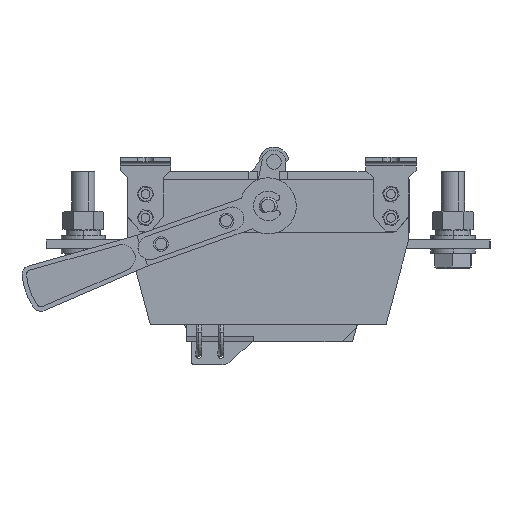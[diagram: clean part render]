
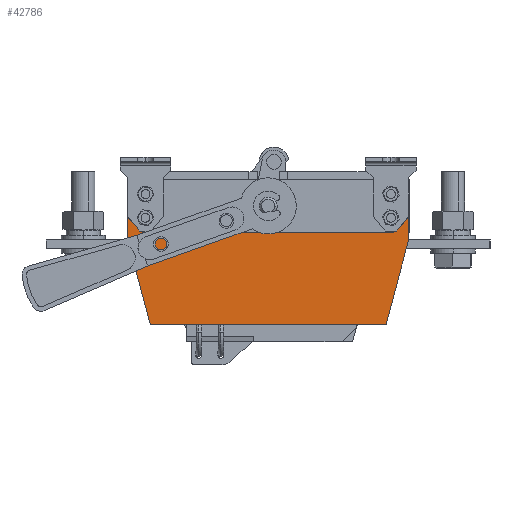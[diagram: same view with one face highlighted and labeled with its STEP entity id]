
A CAD part, left-side view. The second image highlights one B-rep face of the part: STEP entity #42786.
In plain terms, the highlighted planar face has unit normal (-1, 0, 0).
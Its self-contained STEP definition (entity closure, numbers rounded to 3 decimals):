
#60 = LINE ( 'NONE', #16211, #23986 ) ;
#320 = EDGE_CURVE ( 'NONE', #30014, #33163, #51762, .T. ) ;
#2501 = VERTEX_POINT ( 'NONE', #90191 ) ;
#3527 = EDGE_CURVE ( 'NONE', #77243, #52592, #99203, .T. ) ;
#5001 = PLANE ( 'NONE',  #63020 ) ;
#6196 = CARTESIAN_POINT ( 'NONE',  ( -111.5, -79.727, -80. ) ) ;
#6411 = DIRECTION ( 'NONE',  ( 0., -1., 0. ) ) ;
#6887 = DIRECTION ( 'NONE',  ( 0., -0.259, 0.966 ) ) ;
#8401 = ORIENTED_EDGE ( 'NONE', *, *, #11473, .T. ) ;
#10315 = ORIENTED_EDGE ( 'NONE', *, *, #101495, .F. ) ;
#11473 = EDGE_CURVE ( 'NONE', #52592, #30014, #52260, .T. ) ;
#12160 = ORIENTED_EDGE ( 'NONE', *, *, #17195, .F. ) ;
#12394 = CARTESIAN_POINT ( 'NONE',  ( -111.5, 86.5, -8. ) ) ;
#12773 = AXIS2_PLACEMENT_3D ( 'NONE', #54101, #54448, #46412 ) ;
#13175 = DIRECTION ( 'NONE',  ( 0., 1., 0. ) ) ;
#13227 = EDGE_CURVE ( 'NONE', #2501, #77243, #36484, .T. ) ;
#13427 = CARTESIAN_POINT ( 'NONE',  ( -111.5, -83., -8. ) ) ;
#14325 = DIRECTION ( 'NONE',  ( 0., 1., 0. ) ) ;
#14512 = CIRCLE ( 'NONE', #12773, 3.5 ) ;
#16211 = CARTESIAN_POINT ( 'NONE',  ( -111.5, -7.937, -1. ) ) ;
#17020 = CIRCLE ( 'NONE', #31682, 3.5 ) ;
#17195 = EDGE_CURVE ( 'NONE', #23434, #72702, #17020, .T. ) ;
#18696 = EDGE_CURVE ( 'NONE', #88695, #46893, #99195, .T. ) ;
#19339 = LINE ( 'NONE', #75239, #53304 ) ;
#20292 = ORIENTED_EDGE ( 'NONE', *, *, #18696, .T. ) ;
#20531 = ORIENTED_EDGE ( 'NONE', *, *, #13227, .T. ) ;
#20787 = CARTESIAN_POINT ( 'NONE',  ( -111.5, -86.5, -8. ) ) ;
#23434 = VERTEX_POINT ( 'NONE', #56100 ) ;
#23986 = VECTOR ( 'NONE', #81443, 1000. ) ;
#24425 = CARTESIAN_POINT ( 'NONE',  ( -111.5, 95., -23. ) ) ;
#25595 = EDGE_CURVE ( 'NONE', #72702, #23434, #96897, .T. ) ;
#26422 = ORIENTED_EDGE ( 'NONE', *, *, #38045, .T. ) ;
#27519 = DIRECTION ( 'NONE',  ( 0., 0., 1. ) ) ;
#27846 = CARTESIAN_POINT ( 'NONE',  ( -111.5, -95., -23. ) ) ;
#28761 = DIRECTION ( 'NONE',  ( 0., -0.259, -0.966 ) ) ;
#29299 = CARTESIAN_POINT ( 'NONE',  ( -111.5, -95., -1. ) ) ;
#30014 = VERTEX_POINT ( 'NONE', #70820 ) ;
#31669 = VERTEX_POINT ( 'NONE', #20787 ) ;
#31682 = AXIS2_PLACEMENT_3D ( 'NONE', #85786, #45506, #13175 ) ;
#33163 = VERTEX_POINT ( 'NONE', #72785 ) ;
#36484 = CIRCLE ( 'NONE', #38582, 8. ) ;
#37237 = ORIENTED_EDGE ( 'NONE', *, *, #3527, .T. ) ;
#38045 = EDGE_CURVE ( 'NONE', #33163, #88695, #46123, .T. ) ;
#38582 = AXIS2_PLACEMENT_3D ( 'NONE', #63084, #77832, #14325 ) ;
#40336 = VECTOR ( 'NONE', #77994, 1000. ) ;
#41264 = EDGE_CURVE ( 'NONE', #46893, #99491, #19339, .T. ) ;
#41579 = EDGE_CURVE ( 'NONE', #99491, #2501, #60, .T. ) ;
#42786 = ADVANCED_FACE ( 'NONE', ( #58532, #79922, #88600 ), #5001, .T. ) ;
#44713 = DIRECTION ( 'NONE',  ( -1., 0., 0. ) ) ;
#45282 = CARTESIAN_POINT ( 'NONE',  ( -111.5, 79.727, -80. ) ) ;
#45506 = DIRECTION ( 'NONE',  ( -1., 0., 0. ) ) ;
#45763 = CARTESIAN_POINT ( 'NONE',  ( -111.5, 95., -1. ) ) ;
#46123 = LINE ( 'NONE', #94376, #102485 ) ;
#46412 = DIRECTION ( 'NONE',  ( 0., -1., 0. ) ) ;
#46893 = VERTEX_POINT ( 'NONE', #27846 ) ;
#47057 = CARTESIAN_POINT ( 'NONE',  ( -111.5, 95., -1. ) ) ;
#48671 = DIRECTION ( 'NONE',  ( 0., 0., -1. ) ) ;
#51762 = LINE ( 'NONE', #45282, #56810 ) ;
#51867 = CIRCLE ( 'NONE', #68389, 3.5 ) ;
#52117 = EDGE_CURVE ( 'NONE', #31669, #94005, #51867, .T. ) ;
#52228 = EDGE_LOOP ( 'NONE', ( #66955, #12160 ) ) ;
#52260 = LINE ( 'NONE', #24425, #64827 ) ;
#52592 = VERTEX_POINT ( 'NONE', #47057 ) ;
#53304 = VECTOR ( 'NONE', #27519, 1000. ) ;
#54101 = CARTESIAN_POINT ( 'NONE',  ( -111.5, -83., -8. ) ) ;
#54107 = CARTESIAN_POINT ( 'NONE',  ( -111.5, -79.5, -8. ) ) ;
#54448 = DIRECTION ( 'NONE',  ( -1., 0., 0. ) ) ;
#55995 = DIRECTION ( 'NONE',  ( 0., 1., 0. ) ) ;
#56100 = CARTESIAN_POINT ( 'NONE',  ( -111.5, 79.5, -8. ) ) ;
#56810 = VECTOR ( 'NONE', #28761, 1000. ) ;
#57651 = EDGE_LOOP ( 'NONE', ( #94588, #10315 ) ) ;
#58532 = FACE_BOUND ( 'NONE', #52228, .T. ) ;
#60018 = CARTESIAN_POINT ( 'NONE',  ( -111.5, -79.727, -80. ) ) ;
#61193 = CARTESIAN_POINT ( 'NONE',  ( -111.5, 0., 0. ) ) ;
#63020 = AXIS2_PLACEMENT_3D ( 'NONE', #61193, #77325, #85343 ) ;
#63084 = CARTESIAN_POINT ( 'NONE',  ( -111.5, 0., 0. ) ) ;
#64827 = VECTOR ( 'NONE', #48671, 1000. ) ;
#65363 = VECTOR ( 'NONE', #6887, 1000. ) ;
#66955 = ORIENTED_EDGE ( 'NONE', *, *, #25595, .F. ) ;
#68389 = AXIS2_PLACEMENT_3D ( 'NONE', #13427, #44713, #85670 ) ;
#70664 = ORIENTED_EDGE ( 'NONE', *, *, #320, .T. ) ;
#70820 = CARTESIAN_POINT ( 'NONE',  ( -111.5, 95., -23. ) ) ;
#72702 = VERTEX_POINT ( 'NONE', #12394 ) ;
#72785 = CARTESIAN_POINT ( 'NONE',  ( -111.5, 79.727, -80. ) ) ;
#75239 = CARTESIAN_POINT ( 'NONE',  ( -111.5, -95., -23. ) ) ;
#76883 = CARTESIAN_POINT ( 'NONE',  ( -111.5, 7.937, -1. ) ) ;
#77243 = VERTEX_POINT ( 'NONE', #76883 ) ;
#77325 = DIRECTION ( 'NONE',  ( -1., 0., 0. ) ) ;
#77764 = ORIENTED_EDGE ( 'NONE', *, *, #41579, .T. ) ;
#77832 = DIRECTION ( 'NONE',  ( 1., 0., 0. ) ) ;
#77994 = DIRECTION ( 'NONE',  ( 0., 1., 0. ) ) ;
#78146 = ORIENTED_EDGE ( 'NONE', *, *, #41264, .T. ) ;
#79922 = FACE_OUTER_BOUND ( 'NONE', #87872, .T. ) ;
#81443 = DIRECTION ( 'NONE',  ( 0., 1., 0. ) ) ;
#82510 = AXIS2_PLACEMENT_3D ( 'NONE', #103268, #95871, #55995 ) ;
#85343 = DIRECTION ( 'NONE',  ( 0., 1., 0. ) ) ;
#85670 = DIRECTION ( 'NONE',  ( 0., -1., 0. ) ) ;
#85786 = CARTESIAN_POINT ( 'NONE',  ( -111.5, 83., -8. ) ) ;
#87872 = EDGE_LOOP ( 'NONE', ( #8401, #70664, #26422, #20292, #78146, #77764, #20531, #37237 ) ) ;
#88600 = FACE_BOUND ( 'NONE', #57651, .T. ) ;
#88695 = VERTEX_POINT ( 'NONE', #60018 ) ;
#90191 = CARTESIAN_POINT ( 'NONE',  ( -111.5, -7.937, -1. ) ) ;
#94005 = VERTEX_POINT ( 'NONE', #54107 ) ;
#94376 = CARTESIAN_POINT ( 'NONE',  ( -111.5, -79.727, -80. ) ) ;
#94588 = ORIENTED_EDGE ( 'NONE', *, *, #52117, .F. ) ;
#95871 = DIRECTION ( 'NONE',  ( -1., 0., 0. ) ) ;
#96897 = CIRCLE ( 'NONE', #82510, 3.5 ) ;
#99195 = LINE ( 'NONE', #6196, #65363 ) ;
#99203 = LINE ( 'NONE', #45763, #40336 ) ;
#99491 = VERTEX_POINT ( 'NONE', #29299 ) ;
#101495 = EDGE_CURVE ( 'NONE', #94005, #31669, #14512, .T. ) ;
#102485 = VECTOR ( 'NONE', #6411, 1000. ) ;
#103268 = CARTESIAN_POINT ( 'NONE',  ( -111.5, 83., -8. ) ) ;
